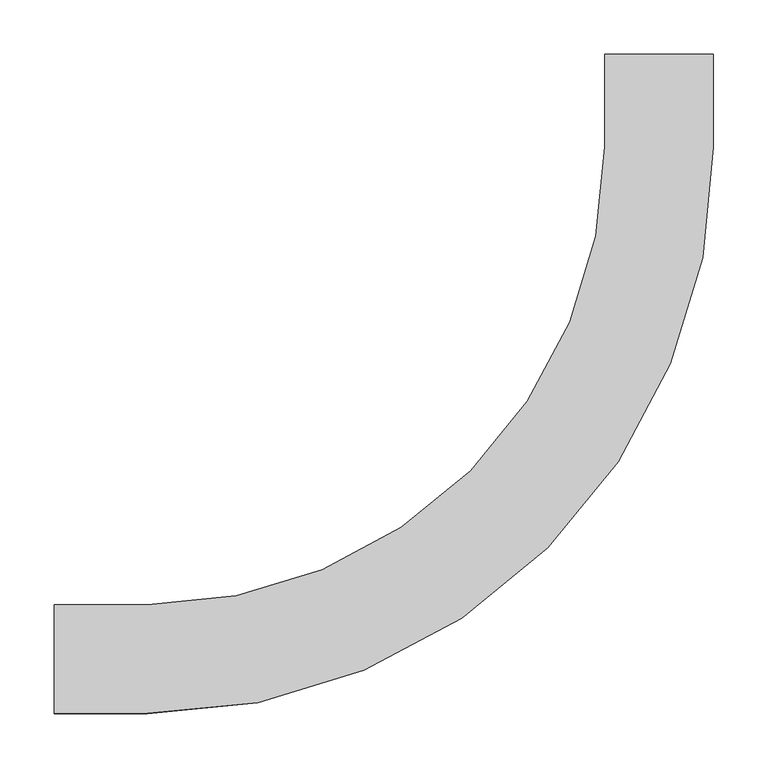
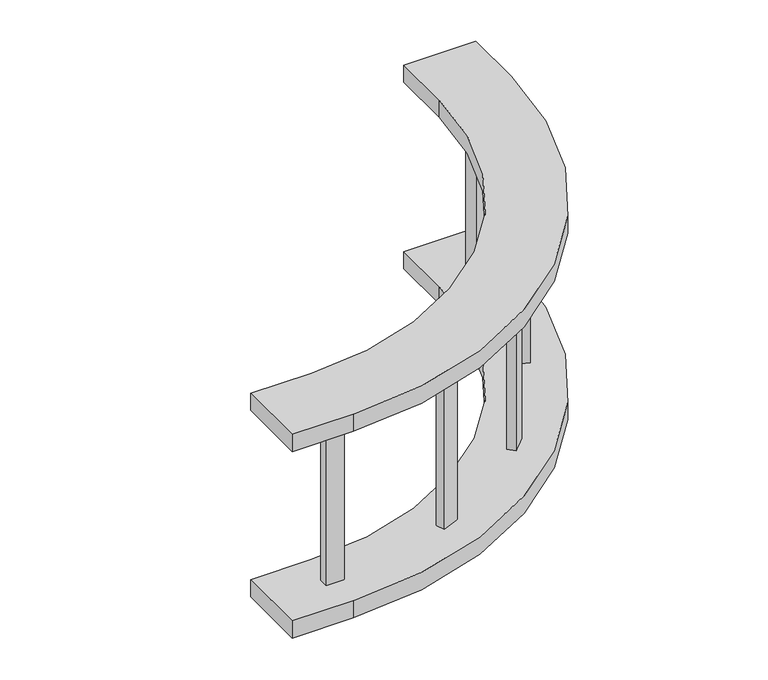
"""IFC4 building model written with IfcOpenShell, lengths in millimetres: cable carrier fitting geometry, BAKS_LD_BEND_Vertical bend 90deg external_LPDZV : LPDZVP_H100."""

from ifc_helpers import new_model, si_unit, point, frame, frame_2d, origin, place, context, project, spatial, polyline, circle_curve, trimmed, segment, composite_curve, outline, extrude, source, transform, mapped, element, save


def cable_carrier_fitting_e1430108(model_context):
    return source(origin(), model_context, "Body", "SweptSolid", [
        extrude(outline(polyline([(-36.4598173, 304.1681574), (-25.3732629, 299.5759563), (-35.0934221, 276.1094161), (-46.1799765, 280.7016173), (-36.4598173, 304.1681574)])), frame((0.0, 0.0, -124.6), z_axis=(0.0, 0.0, 1.0), x_axis=(1.0, 0.0, 0.0)), (0.0, 0.0, 1.0), 249.2),
        extrude(outline(polyline([(-280.7016173, 46.1799765), (-276.1094161, 35.0934221), (-299.5759563, 25.3732629), (-304.1681574, 36.4598173), (-280.7016173, 46.1799765)])), frame((0.0, 0.0, -124.6), z_axis=(0.0, 0.0, 1.0), x_axis=(1.0, 0.0, 0.0)), (0.0, 0.0, 1.0), 249.2),
        extrude(outline(polyline([(-6.0, 482.7), (6.0, 482.7), (6.0, 457.3), (-6.0, 457.3), (-6.0, 482.7)])), frame((0.0, 0.0, -124.6), z_axis=(0.0, 0.0, 1.0), x_axis=(1.0, 0.0, 0.0)), (0.0, 0.0, 1.0), 249.2),
        extrude(outline(polyline([(-132.9221974, 150.8827097), (-124.436916, 142.3974283), (-142.3974283, 124.436916), (-150.8827097, 132.9221974), (-132.9221974, 150.8827097)])), frame((0.0, 0.0, -124.6), z_axis=(0.0, 0.0, 1.0), x_axis=(1.0, 0.0, 0.0)), (0.0, 0.0, 1.0), 249.2),
        extrude(outline(polyline([(-482.7, -6.0), (-482.7, 6.0), (-457.3, 6.0), (-457.3, -6.0), (-482.7, -6.0)])), frame((0.0, 0.0, -124.6), z_axis=(0.0, 0.0, 1.0), x_axis=(1.0, 0.0, 0.0)), (0.0, 0.0, 1.0), 249.2),
        extrude(outline(composite_curve([segment(polyline([(-555.0, -50.0), (-555.0, 50.0), (-470.0, 50.0)]), True, "CONTINUOUS"), segment(trimmed(circle_curve(frame_2d((-470.0, 470.0)), 420.0), [point((-470.0, 50.0))], [point((-50.0, 470.0))], True, "CARTESIAN"), True, "CONTINUOUS"), segment(polyline([(-50.0, 470.0), (-50.0, 555.0), (50.0, 555.0), (50.0, 470.0)]), True, "CONTINUOUS"), segment(trimmed(circle_curve(frame_2d((-470.0, 470.0)), 520.0), [point((50.0, 470.0))], [point((-470.0, -50.0))], False, "CARTESIAN"), True, "CONTINUOUS"), segment(polyline([(-470.0, -50.0), (-555.0, -50.0)]), True, "CONTINUOUS")], self_intersect=False)), frame((0.0, 0.0, 124.6), z_axis=(0.0, 0.0, 1.0), x_axis=(1.0, 0.0, 0.0)), (0.0, 0.0, 1.0), 25.4),
        extrude(outline(composite_curve([segment(polyline([(-555.0, -50.0), (-555.0, 50.0), (-470.0, 50.0)]), True, "CONTINUOUS"), segment(trimmed(circle_curve(frame_2d((-470.0, 470.0)), 420.0), [point((-470.0, 50.0))], [point((-50.0, 470.0))], True, "CARTESIAN"), True, "CONTINUOUS"), segment(polyline([(-50.0, 470.0), (-50.0, 555.0), (50.0, 555.0), (50.0, 470.0)]), True, "CONTINUOUS"), segment(trimmed(circle_curve(frame_2d((-470.0, 470.0)), 520.0), [point((50.0, 470.0))], [point((-470.0, -50.0))], False, "CARTESIAN"), True, "CONTINUOUS"), segment(polyline([(-470.0, -50.0), (-555.0, -50.0)]), True, "CONTINUOUS")], self_intersect=False)), frame((0.0, 0.0, -150.0), z_axis=(0.0, 0.0, 1.0), x_axis=(1.0, 0.0, 0.0)), (0.0, 0.0, 1.0), 25.4),
    ])


if __name__ == "__main__":
    model = new_model("IFC4")
    model_context = context("Model", 3, world=origin())
    ifc_project = project(units=[si_unit("LENGTHUNIT", "METRE", prefix="MILLI")], contexts=[model_context])
    site = spatial("IfcSite", under=ifc_project)
    building = spatial("IfcBuilding", under=site)
    placement = place(None, origin())
    cable_carrier_fitting_shape = cable_carrier_fitting_e1430108(model_context)
    element("IfcCableCarrierFitting", 1, ObjectType="BAKS_LD_BEND_Vertical bend 90deg external_LPDZV : LPDZVP_H100", at=placement, inside=building, context=model_context, shape_type="MappedRepresentation", body=[
        mapped(cable_carrier_fitting_shape, transform((0.0, 0.0, 0.0), x_axis=(1.0, 0.0, 0.0), y_axis=(0.0, 1.0, 0.0), z_axis=(0.0, 0.0, 1.0))),
    ])
    save(model, "model.ifc")
